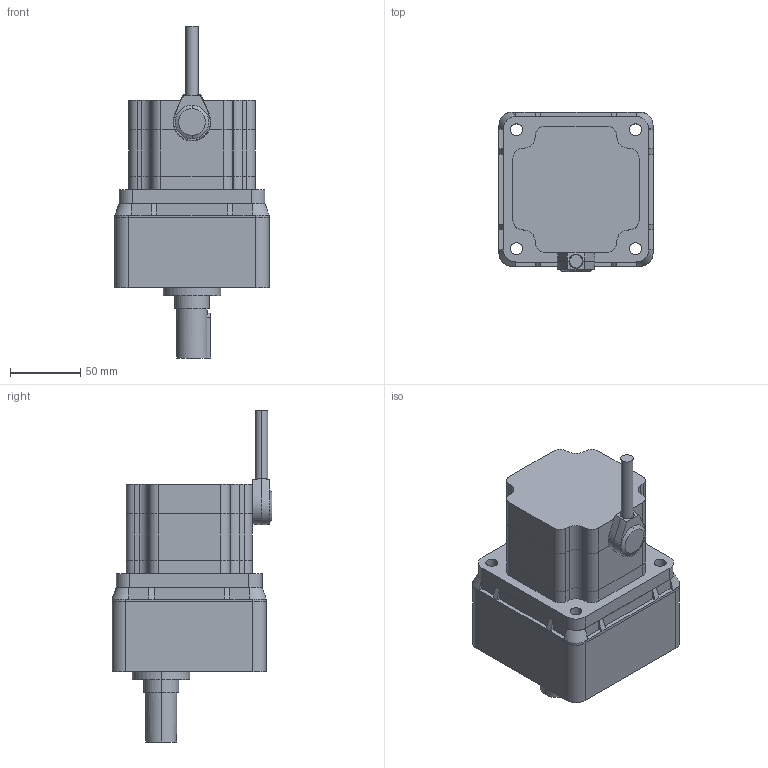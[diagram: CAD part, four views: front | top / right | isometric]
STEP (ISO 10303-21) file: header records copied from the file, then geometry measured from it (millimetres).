
FILE_DESCRIPTION (( 'STEP AP203' ), '1' );
FILE_NAME ('A1857A_B.step', '2022-06-13T01:40:16', ( '' ), ( '' ), 'SwSTEP 2.0', 'SolidWorks 2020', '' );
FILE_SCHEMA (( 'CONFIG_CONTROL_DESIGN' ));
Length unit declared in the file: millimetre
Products named in the file (1): A1857A_B
Bounding box: 110 x 114 x 236.9 mm (x, y, z)
Volume: 1304856.4 mm3; surface area: 111161.5 mm2
Topology: 2 solids, 2 shells, 227 faces, 534 edges, 321 vertices
Faces by surface type: plane 118, cylinder 88, bspline 15, cone 6
Entity records: 7982 total; most frequent: CARTESIAN_POINT 2789, ORIENTED_EDGE 1064, DIRECTION 1031, EDGE_CURVE 532, AXIS2_PLACEMENT_3D 363, VERTEX_POINT 321, LINE 305, VECTOR 305
